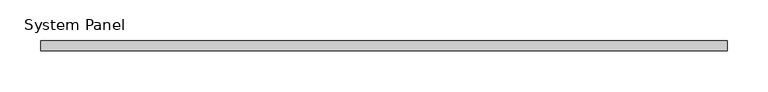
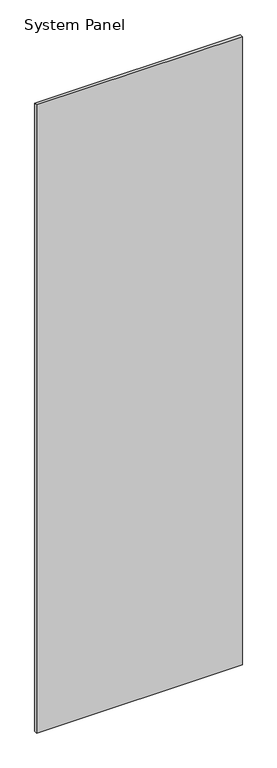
"""IFC4 building model written with IfcOpenShell, lengths in millimetres: plate geometry, System Panel : CR-BARANDA."""

import ifcopenshell
import ifcopenshell.guid

model = None  # the IFC model being written
_history = None  # IfcOwnerHistory: only IFC2X3 demands one
_inside = {}  # id of a spatial element -> (the spatial element, [elements in it])
_under = {}  # id of a project, library or spatial element -> (it, [spatial elements below it])
_declared = {}  # id of a project -> (the project, [libraries it declares])
_typed = {}  # id of a type object -> (the type object, [elements of that type])
_made_of = {}  # id of a material, layer set ... -> (it, [elements and type objects made of it])


def new_model(schema):
    """Start an empty IFC model of exactly this schema.

    Asked for "IFC4X3", IfcOpenShell would pick the latest addendum, in which some entities
    have other attributes; the version numbers below select the first issue.
    IFC2X3 requires an IfcOwnerHistory on every rooted entity: one is made here for all.
    """
    global model, _history
    if schema == "IFC4X3":
        model = ifcopenshell.file(schema_version=(4, 3, 0, 0))
    else:
        model = ifcopenshell.file(schema=schema)
    _inside.clear()
    _under.clear()
    _declared.clear()
    _typed.clear()
    _made_of.clear()
    _history = None
    if model.schema == "IFC2X3":
        org = make("IfcOrganization", Name="unknown")
        user = make(
            "IfcPersonAndOrganization",
            ThePerson=make("IfcPerson", FamilyName="unknown"),
            TheOrganization=org,
        )
        app = make(
            "IfcApplication",
            ApplicationDeveloper=org,
            Version="unknown",
            ApplicationFullName="unknown",
            ApplicationIdentifier="unknown",
        )
        _history = make(
            "IfcOwnerHistory",
            OwningUser=user,
            OwningApplication=app,
            ChangeAction="ADDED",
            CreationDate=0,
        )
    return model


def make(cls, **values):
    """One entity of the class cls with the attributes given. An attribute that is None is left unset."""
    return model.create_entity(
        cls, **{name: value for name, value in values.items() if value is not None}
    )


def rooted(cls, **values):
    """An entity with a GlobalId (a new one), such as an element, a storey or a relation."""
    return make(cls, GlobalId=ifcopenshell.guid.new(), OwnerHistory=_history, **values)


def si_unit(unit_type, name, prefix=None):
    """IfcSIUnit, for example si_unit("LENGTHUNIT", "METRE", prefix="MILLI")."""
    return make("IfcSIUnit", UnitType=unit_type, Prefix=prefix, Name=name)


def assignment(units):
    """IfcUnitAssignment: the units of a project."""
    return None if units is None else make("IfcUnitAssignment", Units=units)


def point(xyz):
    """IfcCartesianPoint."""
    return None if xyz is None else make("IfcCartesianPoint", Coordinates=xyz)


def direction(xyz):
    """IfcDirection."""
    return None if xyz is None else make("IfcDirection", DirectionRatios=xyz)


def frame(location, z_axis=None, x_axis=None):
    """IfcAxis2Placement3D, a coordinate frame: its origin and axes. An axis left out is left unset."""
    return make(
        "IfcAxis2Placement3D",
        Location=point(location),
        Axis=direction(z_axis),
        RefDirection=direction(x_axis),
    )


def origin():
    """The frame at (0, 0, 0) with its axes left unset."""
    return frame((0.0, 0.0, 0.0))


def origin_with_axes():
    """The frame at (0, 0, 0) with the z axis (0, 0, 1) and the x axis (1, 0, 0) written out."""
    return frame((0.0, 0.0, 0.0), z_axis=(0.0, 0.0, 1.0), x_axis=(1.0, 0.0, 0.0))


def place(relative_to, where):
    """IfcLocalPlacement: puts the frame where relative to a parent placement (None: the world)."""
    return make(
        "IfcLocalPlacement", PlacementRelTo=relative_to, RelativePlacement=where
    )


def context(
    kind, dimensions, precision=None, world=None, true_north=None, identifier=None
):
    """IfcGeometricRepresentationContext, for example the 3D "Model" context."""
    return make(
        "IfcGeometricRepresentationContext",
        ContextIdentifier=identifier,
        ContextType=kind,
        CoordinateSpaceDimension=dimensions,
        Precision=precision,
        WorldCoordinateSystem=world,
        TrueNorth=true_north,
    )


def project(units=None, contexts=None):
    """IfcProject with its units and contexts."""
    return rooted(
        "IfcProject",
        Name="project",
        RepresentationContexts=contexts,
        UnitsInContext=assignment(units),
    )


def spatial(cls, under=None, at=None, **own):
    """A site, building, storey or space (cls), placed at a placement, below another one or the project."""
    s = rooted(cls, ObjectPlacement=at, **own)
    if under is not None:
        _under.setdefault(under.id(), (under, []))[1].append(s)
    return s


def polyline(points):
    """IfcPolyline through the points."""
    return make("IfcPolyline", Points=[point(p) for p in points])


def outline(outer, holes=None, kind="AREA"):
    """IfcArbitraryClosedProfileDef: a profile drawn as a closed curve; with holes, ...WithVoids."""
    if holes is None:
        return make("IfcArbitraryClosedProfileDef", ProfileType=kind, OuterCurve=outer)
    return make(
        "IfcArbitraryProfileDefWithVoids",
        ProfileType=kind,
        OuterCurve=outer,
        InnerCurves=holes,
    )


def extrude(swept, where, along, depth):
    """IfcExtrudedAreaSolid: the profile swept, set in the frame where, extruded along a direction by depth."""
    return make(
        "IfcExtrudedAreaSolid",
        SweptArea=swept,
        Position=where,
        ExtrudedDirection=direction(along),
        Depth=depth,
    )


def shape(context_of_items, identifier, shape_type, items):
    """IfcShapeRepresentation: the items that make up one representation, for example the "Body"."""
    return make(
        "IfcShapeRepresentation",
        ContextOfItems=context_of_items,
        RepresentationIdentifier=identifier,
        RepresentationType=shape_type,
        Items=items,
    )


def source(mapping_origin, context_of_items, identifier, shape_type, items):
    """IfcRepresentationMap: a shape defined once, which mapped items show again and again."""
    return make(
        "IfcRepresentationMap",
        MappingOrigin=mapping_origin,
        MappedRepresentation=shape(context_of_items, identifier, shape_type, items),
    )


def transform(
    local_origin,
    x_axis=None,
    y_axis=None,
    z_axis=None,
    scale=None,
    scale2=None,
    scale3=None,
    uniform=True,
):
    """IfcCartesianTransformationOperator3D, or its non-uniform kind. x_axis, y_axis, z_axis: its Axis1, 2, 3."""
    if uniform:
        return make(
            "IfcCartesianTransformationOperator3D",
            Axis1=direction(x_axis),
            Axis2=direction(y_axis),
            LocalOrigin=point(local_origin),
            Scale=scale,
            Axis3=direction(z_axis),
        )
    return make(
        "IfcCartesianTransformationOperator3DnonUniform",
        Axis1=direction(x_axis),
        Axis2=direction(y_axis),
        LocalOrigin=point(local_origin),
        Scale=scale,
        Axis3=direction(z_axis),
        Scale2=scale2,
        Scale3=scale3,
    )


def mapped(mapping_source, mapping_target):
    """IfcMappedItem: shows the shape of a source again, moved by a transform."""
    return make(
        "IfcMappedItem", MappingSource=mapping_source, MappingTarget=mapping_target
    )


def made_of(thing, what):
    """Note that an element or type object is made of a material, layer set ...; save() writes the relation."""
    if what is not None:
        _made_of.setdefault(what.id(), (what, []))[1].append(thing)
    return thing


def element(
    cls,
    number,
    at=None,
    inside=None,
    cuts=None,
    type_object=None,
    material=None,
    context=None,
    identifier="Body",
    shape_type=None,
    held_by="IfcProductDefinitionShape",
    body=None,
    shapes=None,
    **own,
):
    """One element of the class cls, such as IfcWall. Its Tag is "e" and its number.

    at: its placement. inside: the storey or other place that contains it. cuts: it is an
    opening in that element (IfcRelVoidsElement). A single representation is given by context,
    identifier, shape_type and body (its items); several are given by shapes. held_by: the class
    of the entity that holds the representations. save() writes the other relations.
    """
    e = rooted(cls, Tag="e%d" % number, ObjectPlacement=at, **own)
    if body is not None:
        shapes = [shape(context, identifier, shape_type, body)]
    if shapes is not None:
        e.Representation = make(held_by, Representations=shapes)
    if inside is not None:
        _inside.setdefault(inside.id(), (inside, []))[1].append(e)
    if cuts is not None:
        rooted(
            "IfcRelVoidsElement", RelatingBuildingElement=cuts, RelatedOpeningElement=e
        )
    if type_object is not None:
        _typed.setdefault(type_object.id(), (type_object, []))[1].append(e)
    return made_of(e, material)


def aggregate(whole, parts):
    """IfcRelAggregates: a whole, such as a stair, and the parts it consists of."""
    return rooted("IfcRelAggregates", RelatingObject=whole, RelatedObjects=parts)


def save(model, path):
    """Write the relations noted so far, then the file.

    IfcRelAggregates (storeys below a building ...), IfcRelContainedInSpatialStructure (elements
    in a storey), IfcRelDefinesByType, IfcRelAssociatesMaterial and IfcRelDeclares: one each for
    every whole, place, type object, material and project.
    """
    for whole, parts in _under.values():
        aggregate(whole, parts)
    for where, things in _inside.values():
        rooted(
            "IfcRelContainedInSpatialStructure",
            RelatedElements=things,
            RelatingStructure=where,
        )
    for kind, things in _typed.values():
        rooted("IfcRelDefinesByType", RelatedObjects=things, RelatingType=kind)
    for what, things in _made_of.values():
        rooted("IfcRelAssociatesMaterial", RelatedObjects=things, RelatingMaterial=what)
    for by, libraries in _declared.values():
        rooted("IfcRelDeclares", RelatingContext=by, RelatedDefinitions=libraries)
    model.write(path)


def system_panel_c363a63a(model_context):
    return source(origin(), model_context, "Body", "SweptSolid", [
        extrude(outline(polyline([(421.6151985, -6.25), (-421.6151985, -6.25), (-421.6151985, 6.25), (421.6151985, 6.25), (421.6151985, -6.25)])), origin_with_axes(), (0.0, 0.0, 1.0), 2720.0),
    ])


if __name__ == "__main__":
    model = new_model("IFC4")
    model_context = context("Model", 3, world=origin())
    ifc_project = project(units=[si_unit("LENGTHUNIT", "METRE", prefix="MILLI")], contexts=[model_context])
    site = spatial("IfcSite", under=ifc_project)
    building = spatial("IfcBuilding", under=site)
    placement = place(None, origin())
    system_panel_shape = system_panel_c363a63a(model_context)
    element("IfcPlate", 1, ObjectType="System Panel : CR-BARANDA", at=placement, inside=building, context=model_context, shape_type="MappedRepresentation", body=[
        mapped(system_panel_shape, transform((0.0, 0.0, 0.0), x_axis=(1.0, 0.0, 0.0), y_axis=(0.0, 1.0, 0.0), z_axis=(0.0, 0.0, 1.0))),
    ])
    save(model, "model.ifc")
